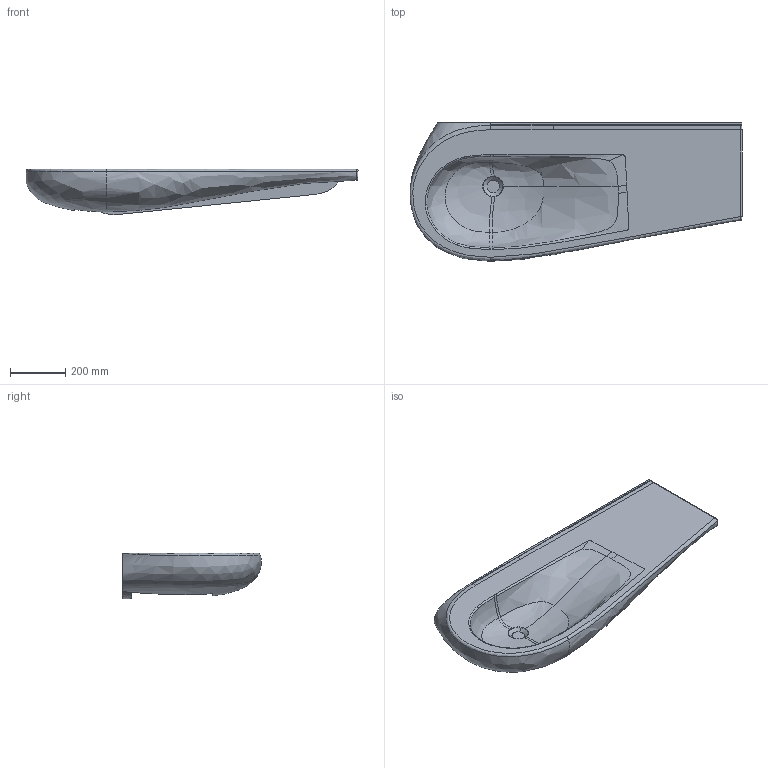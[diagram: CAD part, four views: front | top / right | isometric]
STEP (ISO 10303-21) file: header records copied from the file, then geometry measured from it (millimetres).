
FILE_DESCRIPTION(('CATIA V5 STEP'),'2;1');
FILE_NAME('G:\Laufen Similor\TPM-K\TPE\JStöckli\Daten\BIM\STPs Andre 4.2017\HY14973BIM.stp','2017-04-05T13:53:04+00:00',('none'),('none'),'CATIA Version 5 Release 19 SP 9 (IN-10)','CATIA V5 STEP AP203','none');
FILE_SCHEMA(('CONFIG_CONTROL_DESIGN'));
Length unit declared in the file: millimetre
Products named in the file (1): HY14973BIM
Bounding box: 1197.51 x 500.21 x 163.99 mm (x, y, z)
Volume: 22738863.7 mm3; surface area: 1543830.8 mm2
Topology: 1 solids, 1 shells, 116 faces, 303 edges, 194 vertices
Faces by surface type: bspline 78, plane 21, cylinder 10, cone 4, extrusion 3
Entity records: 22968 total; most frequent: CARTESIAN_POINT 20804, ORIENTED_EDGE 602, EDGE_CURVE 301, B_SPLINE_CURVE_WITH_KNOTS 230, VERTEX_POINT 191, DIRECTION 135, EDGE_LOOP 120, ADVANCED_FACE 116
